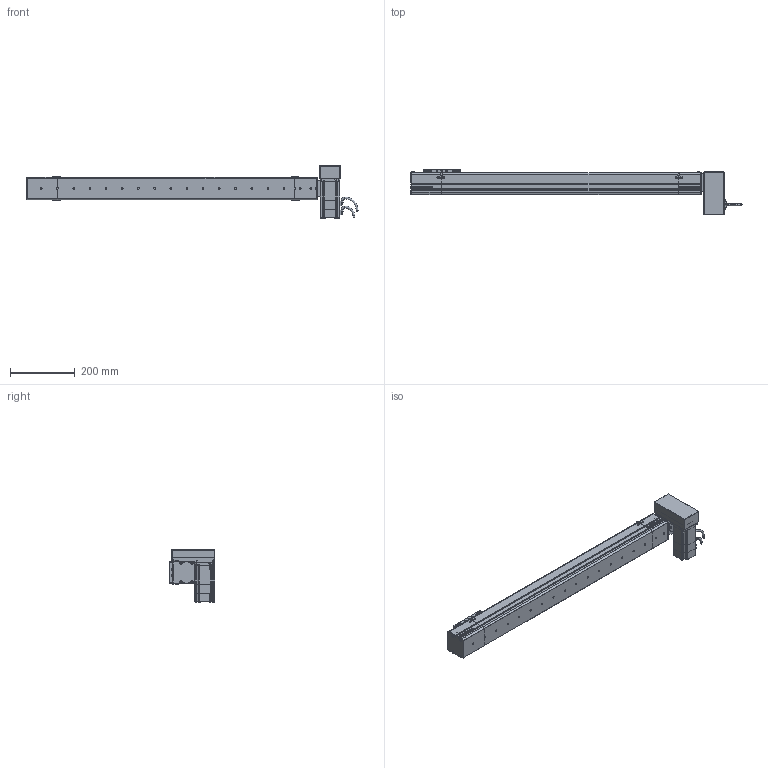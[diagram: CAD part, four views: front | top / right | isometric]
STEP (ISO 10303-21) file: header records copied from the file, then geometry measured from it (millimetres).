
FILE_DESCRIPTION (( 'STEP AP214' ), '1' );
FILE_NAME ('S07 CBN LU S800.STEP', '2010-06-29T10:11:06', ( 'Conseil Régional Haute-Normandie' ), ( 'Conseil Régional Haute-Normandie' ), 'SwSTEP 2.0', 'SolidWorks 2010', '' );
FILE_SCHEMA (( 'AUTOMOTIVE_DESIGN' ));
Length unit declared in the file: millimetre
Products named in the file (31): S07 CBN LU S800; Couvercle Tail_Default; Corp Tail_Default; Corp LU_Default; Plaque de bout LU_Default; Tail S07 Tail_Default; plaque de serrage LU_Default; Plaque de bout Tail_Default; Cache Support Moteur LU_Default; Couvercle S07 S800_Default; Corp S07 S800_Default; Couvercle LU_Default; VisM3_Default; Rondelle de Serrage LU_Default; Conecteur2 60BLDC_Default; 60BLDC90A-640_Default; Support Moteur LU_Default; P1_Default; P4_Default; P3 90A_Default; P2 90A_Default; Conecteur 60BLDC_Default; Axe 60BLDC_Default; Chariot S07_Default; vis M5 L15_Default; plaque de serrage Tail_Default; vis M5 L8_Default; support chariot_Default; chariot_Default; Head LU_Default
Assembly tree (71 placements, depth 4):
  S07 CBN LU S800
    Head LU_Default
      vis M5 L15_Default  x16
      plaque de serrage LU_Default
      Plaque de bout LU_Default
      Couvercle LU_Default
      Rondelle de Serrage LU_Default  x3
      Corp LU_Default
      Support Moteur LU_Default
      Cache Support Moteur LU_Default
      60BLDC90A-640_Default
        VisM3_Default  x12
        Conecteur2 60BLDC_Default
        Axe 60BLDC_Default
        P4_Default
        Conecteur 60BLDC_Default
        P2 90A_Default
        P1_Default
        P3 90A_Default
    Chariot S07_Default
      vis M5 L8_Default  x8
      chariot_Default
      support chariot_Default
    Corp S07 S800_Default
      Corp S07 S800_Default
      Couvercle S07 S800_Default
    Tail S07 Tail_Default
      Corp Tail_Default
      vis M5 L15_Default  x6
      Couvercle Tail_Default
      Plaque de bout Tail_Default
      plaque de serrage Tail_Default
Bounding box: 1025.7 x 142 x 162 mm (x, y, z)
Volume: 5189064.2 mm3; surface area: 676734.5 mm2
Topology: 108 solids, 108 shells, 3898 faces, 9602 edges, 6180 vertices
Faces by surface type: plane 2252, bspline 756, cylinder 679, torus 112, cone 95, sphere 4
Entity records: 153513 total; most frequent: CARTESIAN_POINT 79617, ORIENTED_EDGE 14724, DIRECTION 10995, EDGE_CURVE 7362, VERTEX_POINT 4865, VECTOR 4777, LINE 4777, EDGE_LOOP 3157
